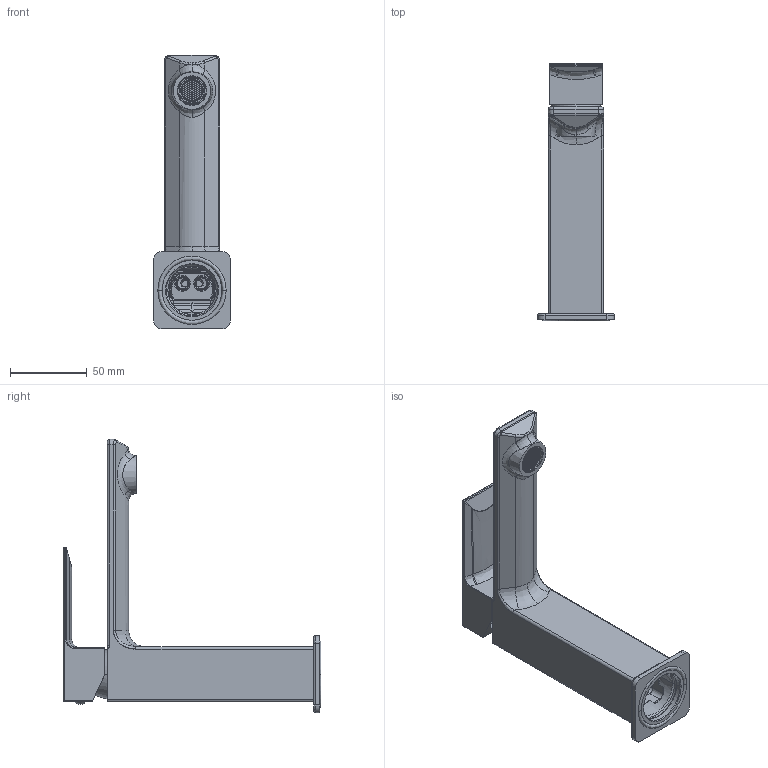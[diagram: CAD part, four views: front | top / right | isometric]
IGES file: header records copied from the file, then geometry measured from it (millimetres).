
Start section:  PTC IGES file: el071hcr.igs
Global section: file name: el071hcr.igs; native system: Creo Parametric by PTC Inc.; preprocessor: 2022124; author: alberto.gaboardi; organization: Unknown; date: 20241011.082905; units: millimetre
Bounding box: 50 x 167.53 x 178 mm (x, y, z)
Surface area: 89947.5 mm2 (no closed solid volume)
Topology: 0 solids, 0 shells, 5004 faces, 27880 edges, 27866 vertices
Faces by surface type: bspline 3880, revolution 1102, extrusion 22
